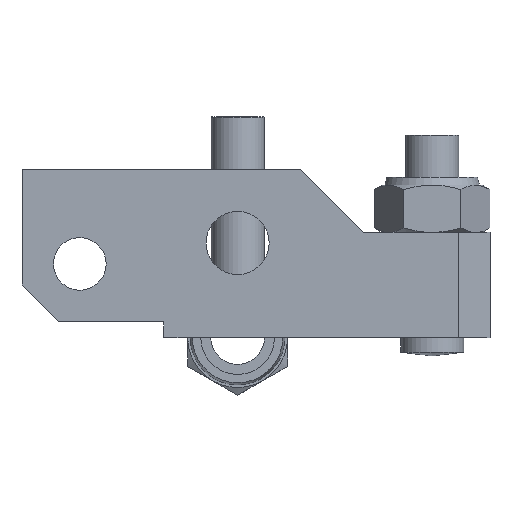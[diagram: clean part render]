
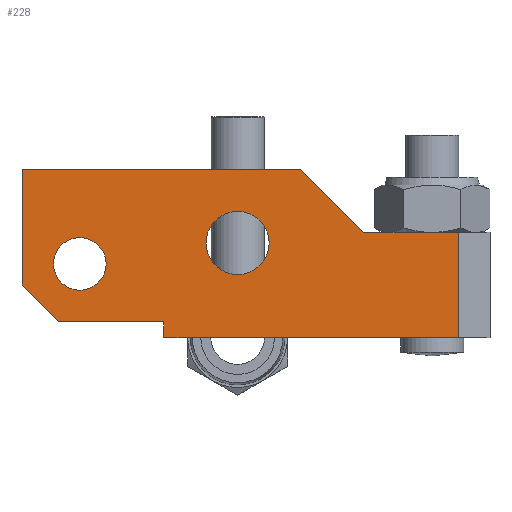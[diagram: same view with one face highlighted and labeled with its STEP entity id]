
A CAD part, front view. The second image highlights one B-rep face of the part: STEP entity #228.
In plain terms, the highlighted planar face has unit normal (0, -1, 0).
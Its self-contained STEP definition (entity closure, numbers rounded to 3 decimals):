
#228 = ADVANCED_FACE( '', ( #305, #306, #307 ), #308, .T. );
#305 = FACE_BOUND( '', #471, .T. );
#306 = FACE_BOUND( '', #472, .T. );
#307 = FACE_OUTER_BOUND( '', #473, .T. );
#308 = PLANE( '', #474 );
#471 = EDGE_LOOP( '', ( #669 ) );
#472 = EDGE_LOOP( '', ( #670 ) );
#473 = EDGE_LOOP( '', ( #671, #672, #673, #674, #675, #676, #677, #678, #679 ) );
#474 = AXIS2_PLACEMENT_3D( '', #680, #681, #682 );
#669 = ORIENTED_EDGE( '', *, *, #1142, .F. );
#670 = ORIENTED_EDGE( '', *, *, #1143, .F. );
#671 = ORIENTED_EDGE( '', *, *, #1139, .T. );
#672 = ORIENTED_EDGE( '', *, *, #1144, .T. );
#673 = ORIENTED_EDGE( '', *, *, #1145, .T. );
#674 = ORIENTED_EDGE( '', *, *, #1146, .T. );
#675 = ORIENTED_EDGE( '', *, *, #1121, .T. );
#676 = ORIENTED_EDGE( '', *, *, #1147, .T. );
#677 = ORIENTED_EDGE( '', *, *, #1148, .T. );
#678 = ORIENTED_EDGE( '', *, *, #1149, .T. );
#679 = ORIENTED_EDGE( '', *, *, #1150, .T. );
#680 = CARTESIAN_POINT( '', ( -14., -11., 0. ) );
#681 = DIRECTION( '', ( 0., -1., 0. ) );
#682 = DIRECTION( '', ( 0., 0., -1. ) );
#1121 = EDGE_CURVE( '', #1269, #1267, #1270, .T. );
#1139 = EDGE_CURVE( '', #1302, #1300, #1303, .T. );
#1142 = EDGE_CURVE( '', #1307, #1307, #1308, .T. );
#1143 = EDGE_CURVE( '', #1309, #1309, #1310, .T. );
#1144 = EDGE_CURVE( '', #1300, #1311, #1312, .T. );
#1145 = EDGE_CURVE( '', #1311, #1313, #1314, .T. );
#1146 = EDGE_CURVE( '', #1313, #1269, #1315, .T. );
#1147 = EDGE_CURVE( '', #1267, #1316, #1317, .T. );
#1148 = EDGE_CURVE( '', #1316, #1318, #1319, .T. );
#1149 = EDGE_CURVE( '', #1318, #1320, #1321, .T. );
#1150 = EDGE_CURVE( '', #1320, #1302, #1322, .T. );
#1267 = VERTEX_POINT( '', #1508 );
#1269 = VERTEX_POINT( '', #1511 );
#1270 = LINE( '', #1512, #1513 );
#1300 = VERTEX_POINT( '', #1557 );
#1302 = VERTEX_POINT( '', #1560 );
#1303 = LINE( '', #1561, #1562 );
#1307 = VERTEX_POINT( '', #1568 );
#1308 = CIRCLE( '', #1569, 5. );
#1309 = VERTEX_POINT( '', #1570 );
#1310 = CIRCLE( '', #1571, 6. );
#1311 = VERTEX_POINT( '', #1572 );
#1312 = LINE( '', #1573, #1574 );
#1313 = VERTEX_POINT( '', #1575 );
#1314 = LINE( '', #1576, #1577 );
#1315 = LINE( '', #1578, #1579 );
#1316 = VERTEX_POINT( '', #1580 );
#1317 = LINE( '', #1581, #1582 );
#1318 = VERTEX_POINT( '', #1583 );
#1319 = LINE( '', #1584, #1585 );
#1320 = VERTEX_POINT( '', #1586 );
#1321 = LINE( '', #1587, #1588 );
#1322 = LINE( '', #1589, #1590 );
#1508 = CARTESIAN_POINT( '', ( -41., -11., 32. ) );
#1511 = CARTESIAN_POINT( '', ( 12., -11., 32. ) );
#1512 = CARTESIAN_POINT( '', ( 12., -11., 32. ) );
#1513 = VECTOR( '', #1962, 1000. );
#1557 = CARTESIAN_POINT( '', ( 42., -11., 0. ) );
#1560 = CARTESIAN_POINT( '', ( -14., -11., 0. ) );
#1561 = CARTESIAN_POINT( '', ( -14., -11., 0. ) );
#1562 = VECTOR( '', #1984, 1000. );
#1568 = CARTESIAN_POINT( '', ( -25., -11., 14. ) );
#1569 = AXIS2_PLACEMENT_3D( '', #1987, #1988, #1989 );
#1570 = CARTESIAN_POINT( '', ( 6., -11., 18. ) );
#1571 = AXIS2_PLACEMENT_3D( '', #1990, #1991, #1992 );
#1572 = CARTESIAN_POINT( '', ( 42., -11., 20. ) );
#1573 = CARTESIAN_POINT( '', ( 42., -11., 20. ) );
#1574 = VECTOR( '', #1993, 1000. );
#1575 = CARTESIAN_POINT( '', ( 24., -11., 20. ) );
#1576 = CARTESIAN_POINT( '', ( 48., -11., 20. ) );
#1577 = VECTOR( '', #1994, 1000. );
#1578 = CARTESIAN_POINT( '', ( 24., -11., 20. ) );
#1579 = VECTOR( '', #1995, 1000. );
#1580 = CARTESIAN_POINT( '', ( -41., -11., 10. ) );
#1581 = CARTESIAN_POINT( '', ( -41., -11., 32. ) );
#1582 = VECTOR( '', #1996, 1000. );
#1583 = CARTESIAN_POINT( '', ( -34., -11., 3. ) );
#1584 = CARTESIAN_POINT( '', ( -41., -11., 10. ) );
#1585 = VECTOR( '', #1997, 1000. );
#1586 = CARTESIAN_POINT( '', ( -14., -11., 3. ) );
#1587 = CARTESIAN_POINT( '', ( -34., -11., 3. ) );
#1588 = VECTOR( '', #1998, 1000. );
#1589 = CARTESIAN_POINT( '', ( -14., -11., 3. ) );
#1590 = VECTOR( '', #1999, 1000. );
#1962 = DIRECTION( '', ( -1., 0., 0. ) );
#1984 = DIRECTION( '', ( 1., 0., 0. ) );
#1987 = CARTESIAN_POINT( '', ( -30., -11., 14. ) );
#1988 = DIRECTION( '', ( 0., -1., 0. ) );
#1989 = DIRECTION( '', ( 1., 0., 0. ) );
#1990 = CARTESIAN_POINT( '', ( 0., -11., 18. ) );
#1991 = DIRECTION( '', ( 0., -1., 0. ) );
#1992 = DIRECTION( '', ( 1., 0., 0. ) );
#1993 = DIRECTION( '', ( 0., 0., 1. ) );
#1994 = DIRECTION( '', ( -1., 0., 0. ) );
#1995 = DIRECTION( '', ( -0.707, 0., 0.707 ) );
#1996 = DIRECTION( '', ( 0., 0., -1. ) );
#1997 = DIRECTION( '', ( 0.707, 0., -0.707 ) );
#1998 = DIRECTION( '', ( 1., 0., 0. ) );
#1999 = DIRECTION( '', ( 0., 0., -1. ) );
